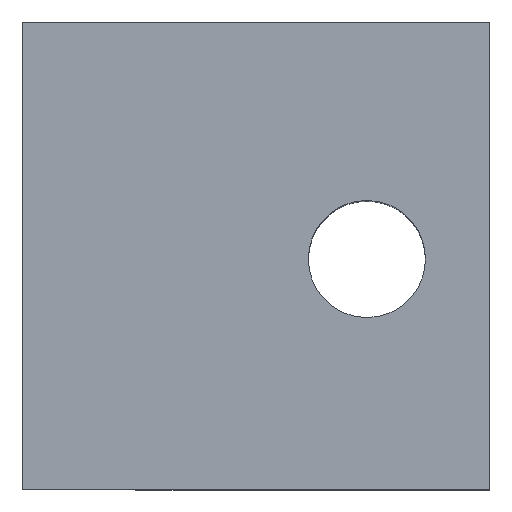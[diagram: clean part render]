
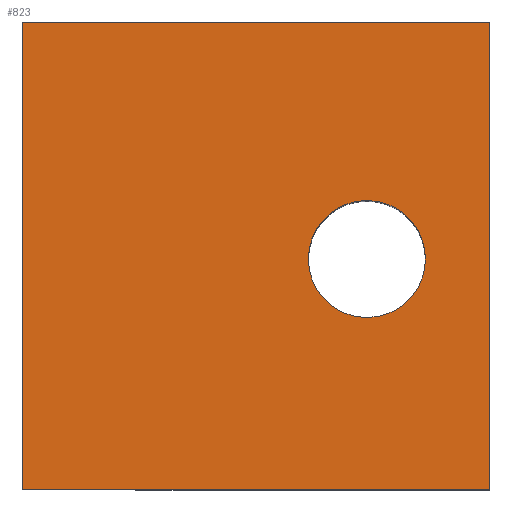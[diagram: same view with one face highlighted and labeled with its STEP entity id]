
A CAD part, top view. The second image highlights one B-rep face of the part: STEP entity #823.
In plain terms, the highlighted planar face has unit normal (0, 0, 1).
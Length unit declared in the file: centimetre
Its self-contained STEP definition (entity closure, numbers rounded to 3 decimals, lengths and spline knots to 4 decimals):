
#13 = LINE ( 'NONE', #29, #660 ) ;
#18 = LINE ( 'NONE', #1092, #981 ) ;
#29 = CARTESIAN_POINT ( 'NONE',  ( 1000., 1000., 1000. ) ) ;
#62 = AXIS2_PLACEMENT_3D ( 'NONE', #706, #1057, #268 ) ;
#67 = ORIENTED_EDGE ( 'NONE', *, *, #904, .T. ) ;
#127 = ORIENTED_EDGE ( 'NONE', *, *, #446, .T. ) ;
#161 = EDGE_LOOP ( 'NONE', ( #127, #990, #1120, #67 ) ) ;
#208 = DIRECTION ( 'NONE',  ( 0., -1., 0. ) ) ;
#219 = CARTESIAN_POINT ( 'NONE',  ( 1000., 0., 1000. ) ) ;
#226 = VECTOR ( 'NONE', #906, 100. ) ;
#265 = CIRCLE ( 'NONE', #62, 125.2276 ) ;
#267 = DIRECTION ( 'NONE',  ( -1., 0., 0. ) ) ;
#268 = DIRECTION ( 'NONE',  ( -1., 0., 0. ) ) ;
#290 = EDGE_CURVE ( 'NONE', #302, #1090, #351, .T. ) ;
#296 = AXIS2_PLACEMENT_3D ( 'NONE', #465, #1073, #267 ) ;
#302 = VERTEX_POINT ( 'NONE', #882 ) ;
#346 = CARTESIAN_POINT ( 'NONE',  ( 0., 0., 1000. ) ) ;
#351 = LINE ( 'NONE', #1062, #821 ) ;
#368 = CARTESIAN_POINT ( 'NONE',  ( 0., 1000., 1000. ) ) ;
#399 = EDGE_CURVE ( 'NONE', #417, #664, #265, .T. ) ;
#417 = VERTEX_POINT ( 'NONE', #1044 ) ;
#422 = DIRECTION ( 'NONE',  ( 1., 0., 0. ) ) ;
#446 = EDGE_CURVE ( 'NONE', #1058, #302, #18, .T. ) ;
#459 = EDGE_CURVE ( 'NONE', #1090, #997, #13, .T. ) ;
#465 = CARTESIAN_POINT ( 'NONE',  ( 737.3841, 492.7238, 1000. ) ) ;
#523 = FACE_OUTER_BOUND ( 'NONE', #161, .T. ) ;
#566 = ORIENTED_EDGE ( 'NONE', *, *, #399, .T. ) ;
#602 = DIRECTION ( 'NONE',  ( 1., 0., 0. ) ) ;
#660 = VECTOR ( 'NONE', #719, 100. ) ;
#664 = VERTEX_POINT ( 'NONE', #853 ) ;
#687 = PLANE ( 'NONE',  #817 ) ;
#706 = CARTESIAN_POINT ( 'NONE',  ( 737.3841, 492.7238, 1000. ) ) ;
#719 = DIRECTION ( 'NONE',  ( 0., 1., 0. ) ) ;
#744 = CARTESIAN_POINT ( 'NONE',  ( 0., 1000., 1000. ) ) ;
#780 = FACE_BOUND ( 'NONE', #845, .T. ) ;
#803 = CIRCLE ( 'NONE', #296, 125.2276 ) ;
#817 = AXIS2_PLACEMENT_3D ( 'NONE', #346, #1053, #422 ) ;
#821 = VECTOR ( 'NONE', #602, 100. ) ;
#823 = ADVANCED_FACE ( 'NONE', ( #780, #523 ), #687, .T. ) ;
#845 = EDGE_LOOP ( 'NONE', ( #566, #916 ) ) ;
#853 = CARTESIAN_POINT ( 'NONE',  ( 862.6116, 492.7238, 1000. ) ) ;
#882 = CARTESIAN_POINT ( 'NONE',  ( 0., 0., 1000. ) ) ;
#904 = EDGE_CURVE ( 'NONE', #997, #1058, #1134, .T. ) ;
#906 = DIRECTION ( 'NONE',  ( -1., 0., 0. ) ) ;
#916 = ORIENTED_EDGE ( 'NONE', *, *, #961, .T. ) ;
#961 = EDGE_CURVE ( 'NONE', #664, #417, #803, .T. ) ;
#974 = CARTESIAN_POINT ( 'NONE',  ( 1000., 1000., 1000. ) ) ;
#981 = VECTOR ( 'NONE', #208, 100. ) ;
#990 = ORIENTED_EDGE ( 'NONE', *, *, #290, .T. ) ;
#997 = VERTEX_POINT ( 'NONE', #974 ) ;
#1044 = CARTESIAN_POINT ( 'NONE',  ( 612.1565, 492.7238, 1000. ) ) ;
#1053 = DIRECTION ( 'NONE',  ( 0., 0., 1. ) ) ;
#1057 = DIRECTION ( 'NONE',  ( 0., 0., -1. ) ) ;
#1058 = VERTEX_POINT ( 'NONE', #744 ) ;
#1062 = CARTESIAN_POINT ( 'NONE',  ( 0., 0., 1000. ) ) ;
#1073 = DIRECTION ( 'NONE',  ( 0., 0., -1. ) ) ;
#1090 = VERTEX_POINT ( 'NONE', #219 ) ;
#1092 = CARTESIAN_POINT ( 'NONE',  ( 0., 1000., 1000. ) ) ;
#1120 = ORIENTED_EDGE ( 'NONE', *, *, #459, .T. ) ;
#1134 = LINE ( 'NONE', #368, #226 ) ;
